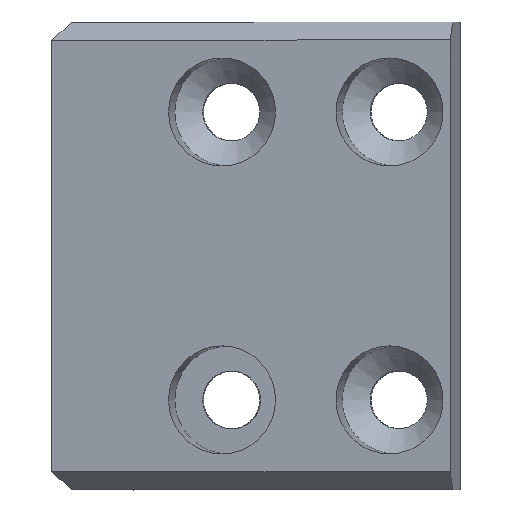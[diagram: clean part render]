
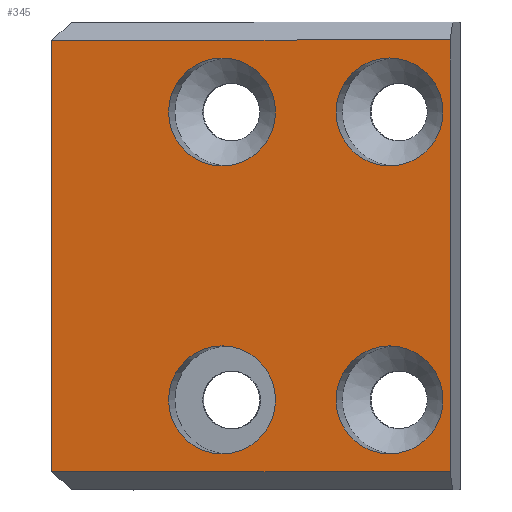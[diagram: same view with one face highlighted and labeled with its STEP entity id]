
A CAD part, top view. The second image highlights one B-rep face of the part: STEP entity #345.
In plain terms, the highlighted planar face has unit normal (-0.139, 0, 0.99).
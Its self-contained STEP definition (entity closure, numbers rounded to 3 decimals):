
#27=FACE_BOUND('',#76,.T.);
#28=FACE_BOUND('',#77,.T.);
#29=FACE_BOUND('',#78,.T.);
#30=FACE_BOUND('',#79,.T.);
#35=CIRCLE('',#380,3.);
#36=CIRCLE('',#381,3.);
#37=CIRCLE('',#382,3.);
#38=CIRCLE('',#383,3.);
#55=FACE_OUTER_BOUND('',#75,.T.);
#75=EDGE_LOOP('',(#249,#250,#251,#252));
#76=EDGE_LOOP('',(#253));
#77=EDGE_LOOP('',(#254));
#78=EDGE_LOOP('',(#255));
#79=EDGE_LOOP('',(#256));
#102=LINE('',#529,#132);
#105=LINE('',#535,#135);
#110=LINE('',#545,#140);
#111=LINE('',#546,#141);
#132=VECTOR('',#420,10.);
#135=VECTOR('',#425,10.);
#140=VECTOR('',#432,10.);
#141=VECTOR('',#433,10.);
#162=VERTEX_POINT('',#526);
#163=VERTEX_POINT('',#528);
#165=VERTEX_POINT('',#534);
#169=VERTEX_POINT('',#544);
#170=VERTEX_POINT('',#547);
#171=VERTEX_POINT('',#549);
#172=VERTEX_POINT('',#551);
#173=VERTEX_POINT('',#553);
#192=EDGE_CURVE('',#162,#163,#102,.T.);
#195=EDGE_CURVE('',#163,#165,#105,.T.);
#200=EDGE_CURVE('',#162,#169,#110,.T.);
#201=EDGE_CURVE('',#165,#169,#111,.T.);
#202=EDGE_CURVE('',#170,#170,#35,.T.);
#203=EDGE_CURVE('',#171,#171,#36,.T.);
#204=EDGE_CURVE('',#172,#172,#37,.T.);
#205=EDGE_CURVE('',#173,#173,#38,.T.);
#249=ORIENTED_EDGE('',*,*,#192,.F.);
#250=ORIENTED_EDGE('',*,*,#200,.T.);
#251=ORIENTED_EDGE('',*,*,#201,.F.);
#252=ORIENTED_EDGE('',*,*,#195,.F.);
#253=ORIENTED_EDGE('',*,*,#202,.T.);
#254=ORIENTED_EDGE('',*,*,#203,.T.);
#255=ORIENTED_EDGE('',*,*,#204,.F.);
#256=ORIENTED_EDGE('',*,*,#205,.F.);
#337=PLANE('',#379);
#345=ADVANCED_FACE('',(#55,#27,#28,#29,#30),#337,.T.);
#379=AXIS2_PLACEMENT_3D('',#543,#430,#431);
#380=AXIS2_PLACEMENT_3D('',#548,#434,#435);
#381=AXIS2_PLACEMENT_3D('',#550,#436,#437);
#382=AXIS2_PLACEMENT_3D('',#552,#438,#439);
#383=AXIS2_PLACEMENT_3D('',#554,#440,#441);
#420=DIRECTION('',(0.99,0.,0.139));
#425=DIRECTION('',(0.,-1.,0.));
#430=DIRECTION('center_axis',(-0.139,0.,0.99));
#431=DIRECTION('ref_axis',(-0.99,0.,-0.139));
#432=DIRECTION('',(0.,-1.,0.));
#433=DIRECTION('',(-0.99,0.,-0.139));
#434=DIRECTION('center_axis',(0.139,0.,-0.99));
#435=DIRECTION('ref_axis',(0.99,0.,0.139));
#436=DIRECTION('center_axis',(0.139,0.,-0.99));
#437=DIRECTION('ref_axis',(0.99,0.,0.139));
#438=DIRECTION('center_axis',(-0.139,0.,0.99));
#439=DIRECTION('ref_axis',(-0.99,0.,-0.139));
#440=DIRECTION('center_axis',(-0.139,0.,0.99));
#441=DIRECTION('ref_axis',(-0.99,0.,-0.139));
#526=CARTESIAN_POINT('',(49.155,12.,45.134));
#528=CARTESIAN_POINT('',(71.289,12.,48.245));
#529=CARTESIAN_POINT('',(87.245,12.,50.487));
#534=CARTESIAN_POINT('',(71.289,-12.,48.245));
#535=CARTESIAN_POINT('',(71.289,3.667,48.245));
#543=CARTESIAN_POINT('Origin',(98.687,13.,52.096));
#544=CARTESIAN_POINT('',(49.155,-12.,45.134));
#545=CARTESIAN_POINT('',(49.155,13.,45.134));
#546=CARTESIAN_POINT('',(87.245,-12.,50.487));
#547=CARTESIAN_POINT('',(64.951,8.,47.354));
#548=CARTESIAN_POINT('Origin',(67.922,8.,47.772));
#549=CARTESIAN_POINT('',(64.951,-8.,47.354));
#550=CARTESIAN_POINT('Origin',(67.922,-8.,47.772));
#551=CARTESIAN_POINT('',(61.583,8.,46.881));
#552=CARTESIAN_POINT('Origin',(58.612,8.,46.463));
#553=CARTESIAN_POINT('',(61.583,-8.,46.881));
#554=CARTESIAN_POINT('Origin',(58.612,-8.,46.463));
